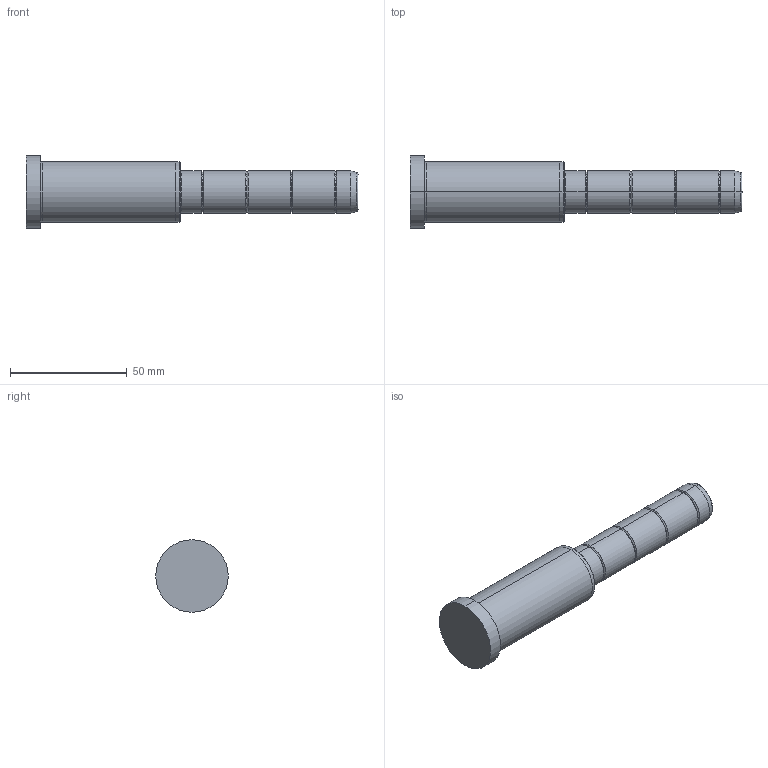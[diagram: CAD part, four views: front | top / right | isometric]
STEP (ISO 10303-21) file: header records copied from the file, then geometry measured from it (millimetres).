
FILE_DESCRIPTION( ( 'STEP AP203' ), '1' );
FILE_NAME( 'C:/Projects/D02 - 18x66x76.step', '2003-01-04T13:28:58', ( ' ' ), ( ' ' ), 'XStep 1.0', ' ', ' ' );
FILE_SCHEMA( ( 'CONFIG_CONTROL_DESIGN' ) );
Length unit declared in the file: metre
Products named in the file (1): 1
Bounding box: 142 x 31 x 31 mm (x, y, z)
Volume: 55605 mm3; surface area: 11320.8 mm2
Topology: 1 solids, 1 shells, 48 faces, 94 edges, 52 vertices
Faces by surface type: bspline 26, revolution 22
Entity records: 1523 total; most frequent: CARTESIAN_POINT 617, ORIENTED_EDGE 188, DIRECTION 150, EDGE_CURVE 94, AXIS2_PLACEMENT_3D 53, EDGE_LOOP 52, VERTEX_POINT 52, CIRCLE 52
